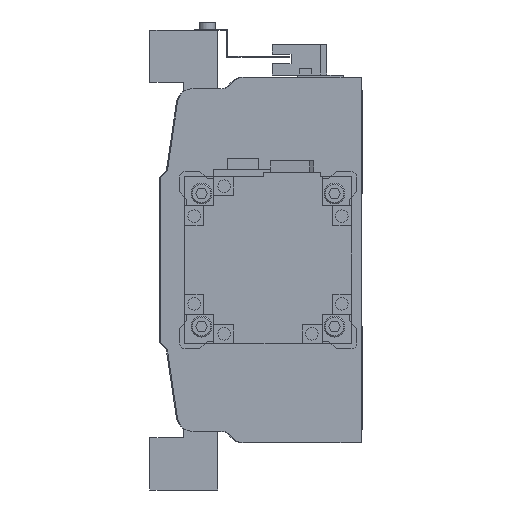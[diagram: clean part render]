
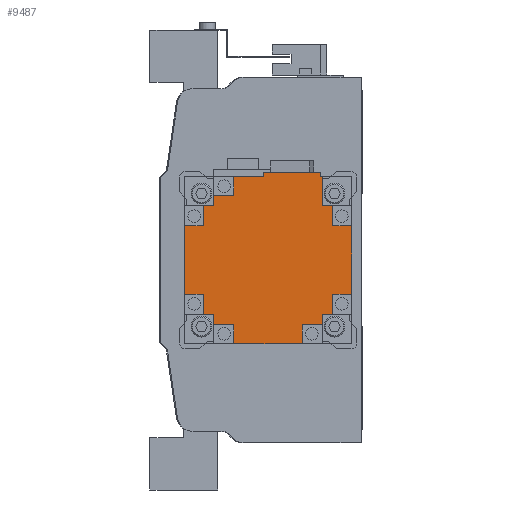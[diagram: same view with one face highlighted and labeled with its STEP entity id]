
A CAD part, left-side view. The second image highlights one B-rep face of the part: STEP entity #9487.
In plain terms, the highlighted planar face has unit normal (-1, 0, 0) as drawn and (0, 1, 0) by its records, which use the part's own axes.
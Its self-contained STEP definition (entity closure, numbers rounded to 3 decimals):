
#154=PLANE('',#10168);
#660=LINE('',#14062,#1711);
#669=LINE('',#14082,#1720);
#675=LINE('',#14094,#1726);
#678=LINE('',#14100,#1729);
#679=LINE('',#14103,#1730);
#680=LINE('',#14105,#1731);
#681=LINE('',#14107,#1732);
#682=LINE('',#14109,#1733);
#683=LINE('',#14111,#1734);
#684=LINE('',#14113,#1735);
#685=LINE('',#14115,#1736);
#686=LINE('',#14117,#1737);
#687=LINE('',#14119,#1738);
#688=LINE('',#14121,#1739);
#689=LINE('',#14123,#1740);
#690=LINE('',#14125,#1741);
#691=LINE('',#14127,#1742);
#692=LINE('',#14129,#1743);
#693=LINE('',#14131,#1744);
#694=LINE('',#14133,#1745);
#695=LINE('',#14135,#1746);
#696=LINE('',#14137,#1747);
#697=LINE('',#14139,#1748);
#698=LINE('',#14141,#1749);
#699=LINE('',#14142,#1750);
#700=LINE('',#14143,#1751);
#701=LINE('',#14144,#1752);
#702=LINE('',#14146,#1753);
#703=LINE('',#14148,#1754);
#704=LINE('',#14150,#1755);
#1711=VECTOR('',#11317,1000.);
#1720=VECTOR('',#11328,1000.);
#1726=VECTOR('',#11334,1000.);
#1729=VECTOR('',#11339,1000.);
#1730=VECTOR('',#11340,1000.);
#1731=VECTOR('',#11341,1000.);
#1732=VECTOR('',#11342,1000.);
#1733=VECTOR('',#11343,1000.);
#1734=VECTOR('',#11344,1000.);
#1735=VECTOR('',#11345,1000.);
#1736=VECTOR('',#11346,1000.);
#1737=VECTOR('',#11347,1000.);
#1738=VECTOR('',#11348,1000.);
#1739=VECTOR('',#11349,1000.);
#1740=VECTOR('',#11350,1000.);
#1741=VECTOR('',#11351,1000.);
#1742=VECTOR('',#11352,1000.);
#1743=VECTOR('',#11353,1000.);
#1744=VECTOR('',#11354,1000.);
#1745=VECTOR('',#11355,1000.);
#1746=VECTOR('',#11356,1000.);
#1747=VECTOR('',#11357,1000.);
#1748=VECTOR('',#11358,1000.);
#1749=VECTOR('',#11359,1000.);
#1750=VECTOR('',#11360,1000.);
#1751=VECTOR('',#11361,1000.);
#1752=VECTOR('',#11362,1000.);
#1753=VECTOR('',#11363,1000.);
#1754=VECTOR('',#11364,1000.);
#1755=VECTOR('',#11365,1000.);
#3049=ORIENTED_EDGE('',*,*,#5516,.T.);
#3050=ORIENTED_EDGE('',*,*,#5517,.T.);
#3051=ORIENTED_EDGE('',*,*,#5518,.T.);
#3052=ORIENTED_EDGE('',*,*,#5519,.T.);
#3053=ORIENTED_EDGE('',*,*,#5520,.T.);
#3054=ORIENTED_EDGE('',*,*,#5521,.F.);
#3055=ORIENTED_EDGE('',*,*,#5522,.F.);
#3056=ORIENTED_EDGE('',*,*,#5523,.T.);
#3057=ORIENTED_EDGE('',*,*,#5524,.T.);
#3058=ORIENTED_EDGE('',*,*,#5525,.T.);
#3059=ORIENTED_EDGE('',*,*,#5526,.T.);
#3060=ORIENTED_EDGE('',*,*,#5527,.T.);
#3061=ORIENTED_EDGE('',*,*,#5528,.F.);
#3062=ORIENTED_EDGE('',*,*,#5529,.F.);
#3063=ORIENTED_EDGE('',*,*,#5530,.T.);
#3064=ORIENTED_EDGE('',*,*,#5531,.T.);
#3065=ORIENTED_EDGE('',*,*,#5532,.T.);
#3066=ORIENTED_EDGE('',*,*,#5533,.T.);
#3067=ORIENTED_EDGE('',*,*,#5534,.T.);
#3068=ORIENTED_EDGE('',*,*,#5535,.F.);
#3069=ORIENTED_EDGE('',*,*,#5536,.F.);
#3070=ORIENTED_EDGE('',*,*,#5507,.T.);
#3071=ORIENTED_EDGE('',*,*,#5537,.F.);
#3072=ORIENTED_EDGE('',*,*,#5498,.F.);
#3073=ORIENTED_EDGE('',*,*,#5538,.T.);
#3074=ORIENTED_EDGE('',*,*,#5513,.T.);
#3075=ORIENTED_EDGE('',*,*,#5539,.T.);
#3076=ORIENTED_EDGE('',*,*,#5540,.T.);
#3077=ORIENTED_EDGE('',*,*,#5541,.F.);
#3078=ORIENTED_EDGE('',*,*,#5542,.F.);
#5498=EDGE_CURVE('',#6772,#6773,#660,.T.);
#5507=EDGE_CURVE('',#6782,#6780,#669,.T.);
#5513=EDGE_CURVE('',#6788,#6787,#675,.T.);
#5516=EDGE_CURVE('',#6790,#6791,#678,.T.);
#5517=EDGE_CURVE('',#6791,#6792,#679,.T.);
#5518=EDGE_CURVE('',#6792,#6793,#680,.T.);
#5519=EDGE_CURVE('',#6793,#6794,#681,.T.);
#5520=EDGE_CURVE('',#6794,#6795,#682,.T.);
#5521=EDGE_CURVE('',#6796,#6795,#683,.T.);
#5522=EDGE_CURVE('',#6797,#6796,#684,.T.);
#5523=EDGE_CURVE('',#6797,#6798,#685,.T.);
#5524=EDGE_CURVE('',#6798,#6799,#686,.T.);
#5525=EDGE_CURVE('',#6799,#6800,#687,.T.);
#5526=EDGE_CURVE('',#6800,#6801,#688,.T.);
#5527=EDGE_CURVE('',#6801,#6802,#689,.T.);
#5528=EDGE_CURVE('',#6803,#6802,#690,.T.);
#5529=EDGE_CURVE('',#6804,#6803,#691,.T.);
#5530=EDGE_CURVE('',#6804,#6805,#692,.T.);
#5531=EDGE_CURVE('',#6805,#6806,#693,.T.);
#5532=EDGE_CURVE('',#6806,#6807,#694,.T.);
#5533=EDGE_CURVE('',#6807,#6808,#695,.T.);
#5534=EDGE_CURVE('',#6808,#6809,#696,.T.);
#5535=EDGE_CURVE('',#6810,#6809,#697,.T.);
#5536=EDGE_CURVE('',#6782,#6810,#698,.T.);
#5537=EDGE_CURVE('',#6773,#6780,#699,.T.);
#5538=EDGE_CURVE('',#6772,#6788,#700,.T.);
#5539=EDGE_CURVE('',#6787,#6811,#701,.T.);
#5540=EDGE_CURVE('',#6811,#6812,#702,.T.);
#5541=EDGE_CURVE('',#6813,#6812,#703,.T.);
#5542=EDGE_CURVE('',#6790,#6813,#704,.T.);
#6772=VERTEX_POINT('',#14063);
#6773=VERTEX_POINT('',#14064);
#6780=VERTEX_POINT('',#14080);
#6782=VERTEX_POINT('',#14083);
#6787=VERTEX_POINT('',#14093);
#6788=VERTEX_POINT('',#14095);
#6790=VERTEX_POINT('',#14101);
#6791=VERTEX_POINT('',#14102);
#6792=VERTEX_POINT('',#14104);
#6793=VERTEX_POINT('',#14106);
#6794=VERTEX_POINT('',#14108);
#6795=VERTEX_POINT('',#14110);
#6796=VERTEX_POINT('',#14112);
#6797=VERTEX_POINT('',#14114);
#6798=VERTEX_POINT('',#14116);
#6799=VERTEX_POINT('',#14118);
#6800=VERTEX_POINT('',#14120);
#6801=VERTEX_POINT('',#14122);
#6802=VERTEX_POINT('',#14124);
#6803=VERTEX_POINT('',#14126);
#6804=VERTEX_POINT('',#14128);
#6805=VERTEX_POINT('',#14130);
#6806=VERTEX_POINT('',#14132);
#6807=VERTEX_POINT('',#14134);
#6808=VERTEX_POINT('',#14136);
#6809=VERTEX_POINT('',#14138);
#6810=VERTEX_POINT('',#14140);
#6811=VERTEX_POINT('',#14145);
#6812=VERTEX_POINT('',#14147);
#6813=VERTEX_POINT('',#14149);
#7933=EDGE_LOOP('',(#3049,#3050,#3051,#3052,#3053,#3054,#3055,#3056,#3057,
#3058,#3059,#3060,#3061,#3062,#3063,#3064,#3065,#3066,#3067,#3068,#3069,
#3070,#3071,#3072,#3073,#3074,#3075,#3076,#3077,#3078));
#8658=FACE_BOUND('',#7933,.T.);
#9487=ADVANCED_FACE('',(#8658),#154,.T.);
#10168=AXIS2_PLACEMENT_3D('',#14099,#11337,#11338);
#11317=DIRECTION('',(0.,0.,1.));
#11328=DIRECTION('',(0.,0.,-1.));
#11334=DIRECTION('',(0.,0.,-1.));
#11337=DIRECTION('',(0.,1.,0.));
#11338=DIRECTION('',(0.,0.,1.));
#11339=DIRECTION('',(-1.,0.,0.));
#11340=DIRECTION('',(0.,0.,-1.));
#11341=DIRECTION('',(-1.,0.,0.));
#11342=DIRECTION('',(0.,0.,1.));
#11343=DIRECTION('',(-1.,0.,0.));
#11344=DIRECTION('',(0.,0.,-1.));
#11345=DIRECTION('',(1.,0.,0.));
#11346=DIRECTION('',(0.,0.,1.));
#11347=DIRECTION('',(-1.,0.,0.));
#11348=DIRECTION('',(0.,0.,1.));
#11349=DIRECTION('',(1.,0.,0.));
#11350=DIRECTION('',(0.,0.,1.));
#11351=DIRECTION('',(-1.,0.,0.));
#11352=DIRECTION('',(0.,0.,-1.));
#11353=DIRECTION('',(1.,0.,0.));
#11354=DIRECTION('',(0.,0.,1.));
#11355=DIRECTION('',(1.,0.,0.));
#11356=DIRECTION('',(0.,0.,-1.));
#11357=DIRECTION('',(1.,0.,0.));
#11358=DIRECTION('',(0.,0.,1.));
#11359=DIRECTION('',(-1.,0.,0.));
#11360=DIRECTION('',(-1.,0.,0.));
#11361=DIRECTION('',(-1.,0.,0.));
#11362=DIRECTION('',(-1.,0.,0.));
#11363=DIRECTION('',(0.,0.,-1.));
#11364=DIRECTION('',(1.,0.,0.));
#11365=DIRECTION('',(0.,0.,1.));
#14062=CARTESIAN_POINT('',(42.,138.3,-2.2));
#14063=CARTESIAN_POINT('',(42.,138.3,-2.2));
#14064=CARTESIAN_POINT('',(42.,138.3,25.2));
#14080=CARTESIAN_POINT('',(39.95,138.3,25.2));
#14082=CARTESIAN_POINT('',(39.95,138.3,39.95));
#14083=CARTESIAN_POINT('',(39.95,138.3,25.95));
#14093=CARTESIAN_POINT('',(39.95,138.3,-16.35));
#14094=CARTESIAN_POINT('',(39.95,138.3,39.95));
#14095=CARTESIAN_POINT('',(39.95,138.3,-2.2));
#14099=CARTESIAN_POINT('',(0.,138.3,0.));
#14100=CARTESIAN_POINT('',(0.,138.3,-30.95));
#14101=CARTESIAN_POINT('',(25.95,138.3,-30.95));
#14102=CARTESIAN_POINT('',(16.35,138.3,-30.95));
#14103=CARTESIAN_POINT('',(16.35,138.3,0.));
#14104=CARTESIAN_POINT('',(16.35,138.3,-39.95));
#14105=CARTESIAN_POINT('',(39.95,138.3,-39.95));
#14106=CARTESIAN_POINT('',(-16.35,138.3,-39.95));
#14107=CARTESIAN_POINT('',(-16.35,138.3,0.));
#14108=CARTESIAN_POINT('',(-16.35,138.3,-30.95));
#14109=CARTESIAN_POINT('',(0.,138.3,-30.95));
#14110=CARTESIAN_POINT('',(-25.95,138.3,-30.95));
#14111=CARTESIAN_POINT('',(-25.95,138.3,0.));
#14112=CARTESIAN_POINT('',(-25.95,138.3,-25.95));
#14113=CARTESIAN_POINT('',(0.,138.3,-25.95));
#14114=CARTESIAN_POINT('',(-30.95,138.3,-25.95));
#14115=CARTESIAN_POINT('',(-30.95,138.3,0.));
#14116=CARTESIAN_POINT('',(-30.95,138.3,-16.35));
#14117=CARTESIAN_POINT('',(0.,138.3,-16.35));
#14118=CARTESIAN_POINT('',(-39.95,138.3,-16.35));
#14119=CARTESIAN_POINT('',(-39.95,138.3,-39.95));
#14120=CARTESIAN_POINT('',(-39.95,138.3,16.35));
#14121=CARTESIAN_POINT('',(0.,138.3,16.35));
#14122=CARTESIAN_POINT('',(-30.95,138.3,16.35));
#14123=CARTESIAN_POINT('',(-30.95,138.3,0.));
#14124=CARTESIAN_POINT('',(-30.95,138.3,25.95));
#14125=CARTESIAN_POINT('',(0.,138.3,25.95));
#14126=CARTESIAN_POINT('',(-25.95,138.3,25.95));
#14127=CARTESIAN_POINT('',(-25.95,138.3,0.));
#14128=CARTESIAN_POINT('',(-25.95,138.3,30.95));
#14129=CARTESIAN_POINT('',(0.,138.3,30.95));
#14130=CARTESIAN_POINT('',(-16.35,138.3,30.95));
#14131=CARTESIAN_POINT('',(-16.35,138.3,0.));
#14132=CARTESIAN_POINT('',(-16.35,138.3,39.95));
#14133=CARTESIAN_POINT('',(-39.95,138.3,39.95));
#14134=CARTESIAN_POINT('',(16.35,138.3,39.95));
#14135=CARTESIAN_POINT('',(16.35,138.3,0.));
#14136=CARTESIAN_POINT('',(16.35,138.3,30.95));
#14137=CARTESIAN_POINT('',(0.,138.3,30.95));
#14138=CARTESIAN_POINT('',(25.95,138.3,30.95));
#14139=CARTESIAN_POINT('',(25.95,138.3,0.));
#14140=CARTESIAN_POINT('',(25.95,138.3,25.95));
#14141=CARTESIAN_POINT('',(0.,138.3,25.95));
#14142=CARTESIAN_POINT('',(42.,138.3,25.2));
#14143=CARTESIAN_POINT('',(42.,138.3,-2.2));
#14144=CARTESIAN_POINT('',(0.,138.3,-16.35));
#14145=CARTESIAN_POINT('',(30.95,138.3,-16.35));
#14146=CARTESIAN_POINT('',(30.95,138.3,0.));
#14147=CARTESIAN_POINT('',(30.95,138.3,-25.95));
#14148=CARTESIAN_POINT('',(0.,138.3,-25.95));
#14149=CARTESIAN_POINT('',(25.95,138.3,-25.95));
#14150=CARTESIAN_POINT('',(25.95,138.3,0.));
